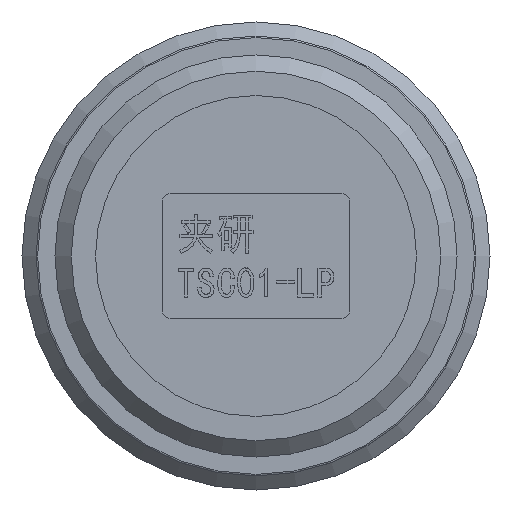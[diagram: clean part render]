
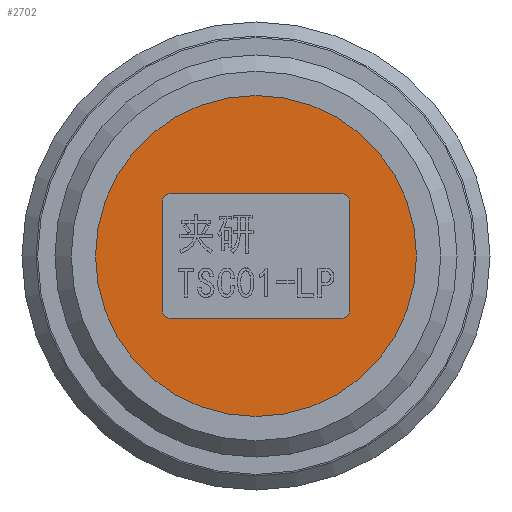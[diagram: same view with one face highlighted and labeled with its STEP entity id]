
A CAD part, front view. The second image highlights one B-rep face of the part: STEP entity #2702.
In plain terms, the highlighted planar face has unit normal (0, -1, 0).
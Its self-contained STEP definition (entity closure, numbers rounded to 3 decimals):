
#1337=PLANE('',#5616);
#1467=LINE('',#6902,#1829);
#1468=LINE('',#6907,#1830);
#1469=LINE('',#6911,#1831);
#1470=LINE('',#6915,#1832);
#1829=VECTOR('',#5906,1.);
#1830=VECTOR('',#5909,1.);
#1831=VECTOR('',#5912,1.);
#1832=VECTOR('',#5915,1.);
#2702=ADVANCED_FACE('',(#2967,#2968),#1337,.T.);
#2967=FACE_BOUND('',#3072,.T.);
#2968=FACE_BOUND('',#3073,.T.);
#3072=EDGE_LOOP('',(#3398,#3399,#3400,#3401,#3402,#3403,#3404,#3405));
#3073=EDGE_LOOP('',(#3406));
#3398=ORIENTED_EDGE('',*,*,#4945,.F.);
#3399=ORIENTED_EDGE('',*,*,#4946,.F.);
#3400=ORIENTED_EDGE('',*,*,#4947,.F.);
#3401=ORIENTED_EDGE('',*,*,#4948,.F.);
#3402=ORIENTED_EDGE('',*,*,#4949,.F.);
#3403=ORIENTED_EDGE('',*,*,#4950,.F.);
#3404=ORIENTED_EDGE('',*,*,#4951,.F.);
#3405=ORIENTED_EDGE('',*,*,#4952,.F.);
#3406=ORIENTED_EDGE('',*,*,#4953,.T.);
#4535=VERTEX_POINT('',#6903);
#4536=VERTEX_POINT('',#6904);
#4537=VERTEX_POINT('',#6906);
#4538=VERTEX_POINT('',#6908);
#4539=VERTEX_POINT('',#6910);
#4540=VERTEX_POINT('',#6912);
#4541=VERTEX_POINT('',#6914);
#4542=VERTEX_POINT('',#6916);
#4543=VERTEX_POINT('',#6919);
#4945=EDGE_CURVE('',#4535,#4536,#1467,.T.);
#4946=EDGE_CURVE('',#4537,#4535,#5519,.T.);
#4947=EDGE_CURVE('',#4538,#4537,#1468,.T.);
#4948=EDGE_CURVE('',#4539,#4538,#5520,.T.);
#4949=EDGE_CURVE('',#4540,#4539,#1469,.T.);
#4950=EDGE_CURVE('',#4541,#4540,#5521,.T.);
#4951=EDGE_CURVE('',#4542,#4541,#1470,.T.);
#4952=EDGE_CURVE('',#4536,#4542,#5522,.T.);
#4953=EDGE_CURVE('',#4543,#4543,#5523,.T.);
#5519=CIRCLE('',#5611,0.5);
#5520=CIRCLE('',#5612,0.5);
#5521=CIRCLE('',#5613,0.5);
#5522=CIRCLE('',#5614,0.5);
#5523=CIRCLE('',#5615,10.29);
#5611=AXIS2_PLACEMENT_3D('',#6905,#5907,#5908);
#5612=AXIS2_PLACEMENT_3D('',#6909,#5910,#5911);
#5613=AXIS2_PLACEMENT_3D('',#6913,#5913,#5914);
#5614=AXIS2_PLACEMENT_3D('',#6917,#5916,#5917);
#5615=AXIS2_PLACEMENT_3D('',#6918,#5918,#5919);
#5616=AXIS2_PLACEMENT_3D('',#6920,#5920,#5921);
#5906=DIRECTION('',(0.,0.,-1.));
#5907=DIRECTION('',(0.,-1.,0.));
#5908=DIRECTION('',(0.,0.,-1.));
#5909=DIRECTION('',(-1.,0.,0.));
#5910=DIRECTION('',(0.,-1.,0.));
#5911=DIRECTION('',(0.,0.,-1.));
#5912=DIRECTION('',(0.,0.,1.));
#5913=DIRECTION('',(0.,-1.,0.));
#5914=DIRECTION('',(0.,0.,-1.));
#5915=DIRECTION('',(1.,0.,0.));
#5916=DIRECTION('',(0.,-1.,0.));
#5917=DIRECTION('',(0.,0.,-1.));
#5918=DIRECTION('',(0.,-1.,0.));
#5919=DIRECTION('',(0.,0.,-1.));
#5920=DIRECTION('',(0.,-1.,0.));
#5921=DIRECTION('',(0.,0.,-1.));
#6902=CARTESIAN_POINT('',(-15.695,0.,0.));
#6903=CARTESIAN_POINT('',(-15.695,0.,3.5));
#6904=CARTESIAN_POINT('',(-15.695,0.,-3.5));
#6905=CARTESIAN_POINT('',(-15.195,0.,3.5));
#6906=CARTESIAN_POINT('',(-15.195,0.,4.));
#6907=CARTESIAN_POINT('',(-9.695,0.,4.));
#6908=CARTESIAN_POINT('',(-4.195,0.,4.));
#6909=CARTESIAN_POINT('',(-4.195,0.,3.5));
#6910=CARTESIAN_POINT('',(-3.695,0.,3.5));
#6911=CARTESIAN_POINT('',(-3.695,0.,0.));
#6912=CARTESIAN_POINT('',(-3.695,0.,-3.5));
#6913=CARTESIAN_POINT('',(-4.195,0.,-3.5));
#6914=CARTESIAN_POINT('',(-4.195,0.,-4.));
#6915=CARTESIAN_POINT('',(-9.695,0.,-4.));
#6916=CARTESIAN_POINT('',(-15.195,0.,-4.));
#6917=CARTESIAN_POINT('',(-15.195,0.,-3.5));
#6918=CARTESIAN_POINT('',(-9.695,0.,0.));
#6919=CARTESIAN_POINT('',(-9.695,0.,-10.29));
#6920=CARTESIAN_POINT('',(-9.695,0.,0.));
